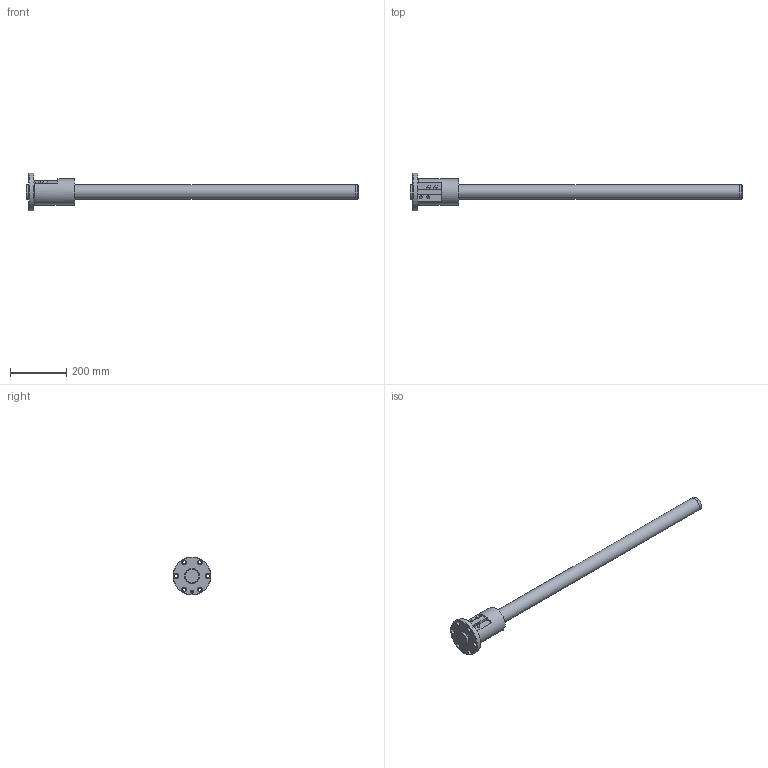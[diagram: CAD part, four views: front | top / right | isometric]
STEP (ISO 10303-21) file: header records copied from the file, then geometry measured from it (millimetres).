
FILE_DESCRIPTION( ( 'STEP AP203' ), ' ' );
FILE_NAME( 'p:/temp/worker_19/4028_1992/app_52_12018011815553580346020818fa3fd_000000_00_00_000000/format_0/BIF5010-10RRG0+1183LC0_10000.stp', '2018-01-18T14:55:37', ( '' ), ( '' ), ' ', 'PARTsolutions', ' ' );
FILE_SCHEMA( ( 'CONFIG_CONTROL_DESIGN' ) );
Length unit declared in the file: millimetre
Products named in the file (3): BIF5010-10RRG0+1183LC0_10000; _BIF 5010-10RR1000500 Shaft; _BIF 5010-10RR Nut
Assembly tree (2 placements, depth 2):
  BIF5010-10RRG0+1183LC0_10000
    _BIF 5010-10RR1000500 Shaft
    _BIF 5010-10RR Nut
Bounding box: 1183 x 135 x 135 mm (x, y, z)
Volume: 3172250.4 mm3; surface area: 298807.5 mm2
Topology: 2 solids, 2 shells, 82 faces, 178 edges, 113 vertices
Faces by surface type: cylinder 39, plane 31, cone 8, torus 4
Full cylindrical faces by diameter (mm): 6.75 x2, 8.566 x1, 8.9 x4, 11 x6, 17.5 x6, 49.5 x2, 50 x4, 55.8 x2, 93 x1, 135 x1
Entity records: 2576 total; most frequent: CARTESIAN_POINT 785, DIRECTION 376, ORIENTED_EDGE 262, AXIS2_PLACEMENT_3D 172, EDGE_LOOP 156, EDGE_CURVE 131, FACE_OUTER_BOUND 111, VERTEX_POINT 103
